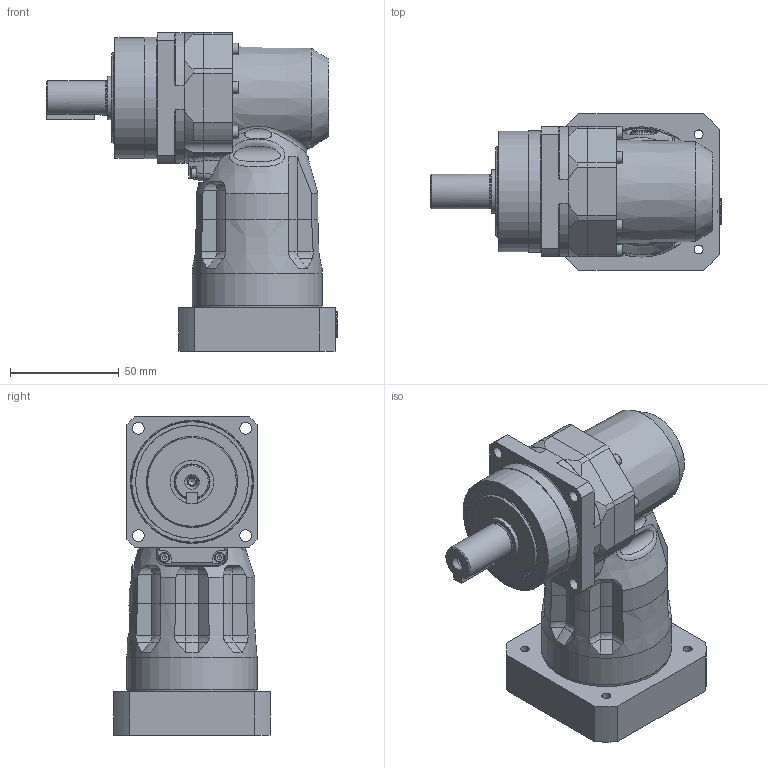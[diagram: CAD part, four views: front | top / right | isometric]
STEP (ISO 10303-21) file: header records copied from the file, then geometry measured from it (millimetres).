
FILE_DESCRIPTION(/* description */ ('ANFX-PK110W-2-H11G'),/* implementation_level */ '2;1');
FILE_NAME(/* name */ 'C:\Users\ADMINI~1\AppData\Local\Temp\MM581342_ANFX-PK110W-2-H11G.stp',/* time_stamp */ '2018-07-11T14:37:47+02:00',/* author */ ('Max'),/* organization */ (''),/* preprocessor_version */ 'ST-DEVELOPER v17',/* originating_system */ 'Autodesk Inventor 2018',/* authorisation */ '');
FILE_SCHEMA (('AUTOMOTIVE_DESIGN { 1 0 10303 214 3 1 1 }'));
Length unit declared in the file: millimetre
Products named in the file (23): MM581710; MMBG0004105; MMCM057LG; MMAF787LG; 202119; MMAP6508G; 009M004R012NG; M531N20357---G; 211458; 212123; 213374; MMBG0004130; MMCL239LG; MMCL433LG; MAW8353G; MAX4839G; M233C0505022NG; MMBG0004116; MMAF790LG; MAZ16117-5; 133793; MAW8386G; 211554
Assembly tree (51 placements, depth 3):
  MM581710
    MMBG0004105
      MMCM057LG
      MMAF787LG
      202119
      MMAP6508G
      009M004R012NG
      M531N20357---G
      211458  x2
      212123  x8
      213374  x6
    MMBG0004130
      MMCL239LG
      MMCL433LG
      MAW8353G
      MAX4839G
      M233C0505022NG
    MMBG0004116
      MMAF790LG
      MAZ16117-5  x10
    133793
    MAW8386G
    211554  x8
Bounding box: 134 x 72 x 146.7 mm (x, y, z)
Volume: 327854.7 mm3; surface area: 147626.2 mm2
Topology: 117 solids, 118 shells, 1184 faces, 3325 edges, 2338 vertices
Faces by surface type: plane 535, cylinder 307, cone 135, torus 95, sphere 68, bspline 44
Full cylindrical faces by diameter (mm): 2 x1, 2.013 x10, 2.459 x14, 2.5 x10, 2.9 x10, 3 x14, 3.242 x10, 3.4 x14, 4 x9, 4.134 x4, 4.3 x1, 4.5 x19, 5.5 x26, 7 x9, 8 x8, 8.566 x2, 9.8 x1, 10 x1, 10.2 x1, 10.4 x1, 12 x1, 14 x1, 14.5 x1, 15 x2, 16 x1, 17.5 x1, 19 x1, 19.4 x1, 19.6 x1, 20 x3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
Entity records: 27500 total; most frequent: CARTESIAN_POINT 6534, DIRECTION 4446, ORIENTED_EDGE 3948, EDGE_CURVE 1974, AXIS2_PLACEMENT_3D 1883, VERTEX_POINT 1503, CIRCLE 1071, EDGE_LOOP 975
